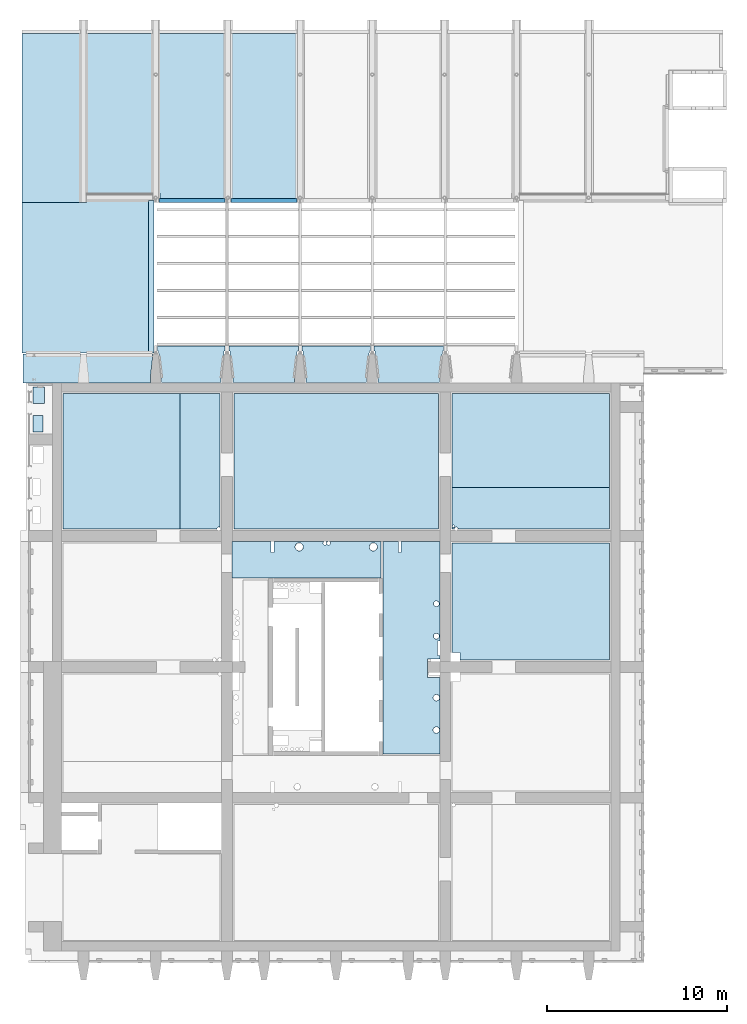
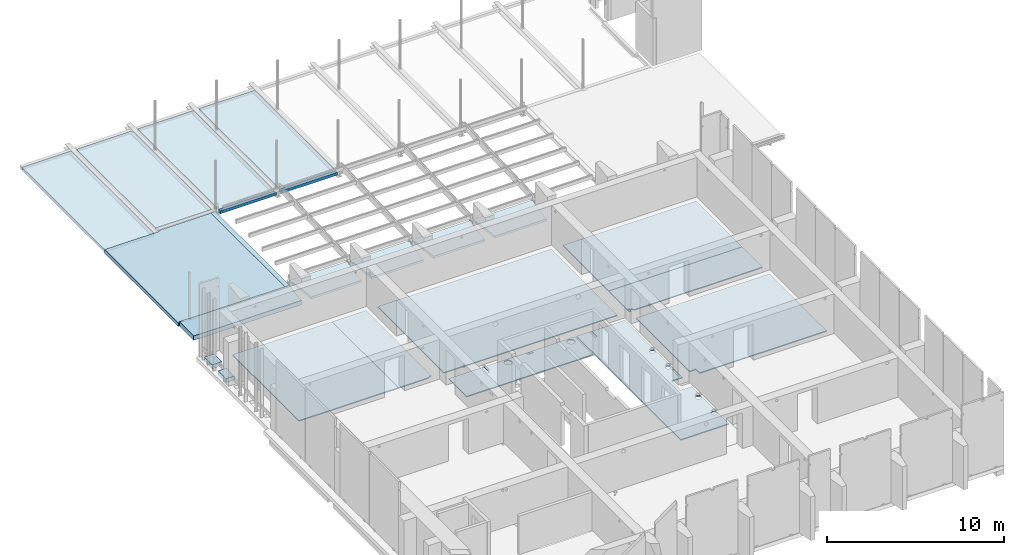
# One storey, part 24 of 31: 23 slabs, 46 openings.
"""IFC2X3 building model written with IfcOpenShell, lengths in millimetres."""

from ifc_helpers import new_model, entity, si_unit, converted_unit, derived_unit, direction, frame, frame_2d, origin, origin_2d_with_axis, place, context, subcontext, project, spatial, polyline, rectangle, circle, outline, extrude, material, layer, layer_set, layer_usage, element, save


model = new_model("IFC2X3")

# Units and contexts
model_context = context("Model", 3, precision=0.01, world=origin(), true_north=direction((6.12303176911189e-17, 1.0)))
body_context = subcontext(model_context, "Body", "Model", "MODEL_VIEW")
ifc_project = project(units=[si_unit("LENGTHUNIT", "METRE", prefix="MILLI"), si_unit("AREAUNIT", "SQUARE_METRE"), si_unit("VOLUMEUNIT", "CUBIC_METRE"), converted_unit("PLANEANGLEUNIT", "DEGREE", entity("IfcRatioMeasure", 0.0174532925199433), si_unit("PLANEANGLEUNIT", "RADIAN"), dimensions=[0, 0, 0, 0, 0, 0, 0]), si_unit("MASSUNIT", "GRAM", prefix="KILO"), derived_unit("MASSDENSITYUNIT", [(si_unit("MASSUNIT", "GRAM", prefix="KILO"), 1), (si_unit("LENGTHUNIT", "METRE"), -3)]), si_unit("TIMEUNIT", "SECOND"), si_unit("FREQUENCYUNIT", "HERTZ"), si_unit("THERMODYNAMICTEMPERATUREUNIT", "DEGREE_CELSIUS"), derived_unit("THERMALTRANSMITTANCEUNIT", [(si_unit("MASSUNIT", "GRAM", prefix="KILO"), 1), (si_unit("THERMODYNAMICTEMPERATUREUNIT", "KELVIN"), -1), (si_unit("TIMEUNIT", "SECOND"), -3)]), derived_unit("VOLUMETRICFLOWRATEUNIT", [(si_unit("LENGTHUNIT", "METRE"), 3), (si_unit("TIMEUNIT", "SECOND"), -1)]), si_unit("ELECTRICCURRENTUNIT", "AMPERE"), si_unit("ELECTRICVOLTAGEUNIT", "VOLT"), si_unit("POWERUNIT", "WATT"), si_unit("FORCEUNIT", "NEWTON", prefix="KILO"), si_unit("ILLUMINANCEUNIT", "LUX"), si_unit("LUMINOUSFLUXUNIT", "LUMEN"), si_unit("LUMINOUSINTENSITYUNIT", "CANDELA"), derived_unit("USERDEFINED", [(si_unit("MASSUNIT", "GRAM", prefix="KILO"), -1), (si_unit("LENGTHUNIT", "METRE"), -2), (si_unit("TIMEUNIT", "SECOND"), 3), (si_unit("LUMINOUSFLUXUNIT", "LUMEN"), 1)]), derived_unit("LINEARVELOCITYUNIT", [(si_unit("LENGTHUNIT", "METRE"), 1), (si_unit("TIMEUNIT", "SECOND"), -1)]), si_unit("PRESSUREUNIT", "PASCAL"), derived_unit("USERDEFINED", [(si_unit("LENGTHUNIT", "METRE"), -2), (si_unit("MASSUNIT", "GRAM", prefix="KILO"), 1), (si_unit("TIMEUNIT", "SECOND"), -2)])], contexts=[model_context])

# Site, building, storey
site_placement = place(None, origin())
site = spatial("IfcSite", under=ifc_project, at=site_placement, Name="Default", CompositionType="ELEMENT")
building_placement = place(site_placement, origin())
building = spatial("IfcBuilding", under=site, at=building_placement, Name="niet gebruiken", CompositionType="ELEMENT")
storey_placement = place(building_placement, frame((0.0, 0.0, 12000.0)))
storey = spatial("IfcBuildingStorey", under=building, at=storey_placement, Name="03 derde verdieping", CompositionType="ELEMENT", Elevation=12000.0)

# Slabs
ifc_material_1 = material(Name="NLRS_f2_beton prefab")
ifc_layer_1 = layer(ifc_material_1, 200.0)
ifc_layer_set_1 = layer_set([ifc_layer_1], Name="Floor:NLRS_23.21_FL_kanaalplaat d=200_gen")
ifc_layer_usage_1 = layer_usage(ifc_layer_set_1, "AXIS3", "POSITIVE", 0.0)
slab_1_placement = place(storey_placement, frame((124350.0, 43230.0, 1140.0)))
element("IfcSlab", 1, at=slab_1_placement, inside=storey, material=ifc_layer_usage_1, Name="Floor:NLRS_23.21_FL_kanaalplaat d=200_gen", ObjectType="Floor:NLRS_23.21_FL_kanaalplaat d=200_gen", PredefinedType="FLOOR", context=body_context, shape_type="SweptSolid", body=[
    extrude(rectangle(XDim=3229.99999999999, YDim=9370.00000000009, at=frame_2d((17795.0, 0.0), x_axis=(1.0, 0.0))), frame((19410.0, 4685.0, 200.0), z_axis=(0.0, 0.0, -1.0), x_axis=(-1.0, 0.0, 0.0)), (0.0, 0.0, 1.0), 200.0),
])
slab_2_placement = place(storey_placement, frame((124350.0, 43230.0, 1140.0)))
element("IfcSlab", 2, at=slab_2_placement, inside=storey, material=ifc_layer_usage_1, Name="Floor:NLRS_23.21_FL_kanaalplaat d=200_gen:3", ObjectType="Floor:NLRS_23.21_FL_kanaalplaat d=200_gen", PredefinedType="FLOOR", context=body_context, shape_type="SweptSolid", body=[
    extrude(outline(polyline([(11760.0, -4465.0), (11760.0, -4165.0), (11840.0, -4165.0), (11840.0, 4685.0), (8180.0, 4685.0), (8180.0, -4465.0), (11760.0, -4465.0)])), frame((19410.0, 4685.0, 200.0), z_axis=(0.0, 0.0, -1.0), x_axis=(-1.0, 0.0, 0.0)), (0.0, 0.0, 1.0), 200.0),
])
slab_3_placement = place(storey_placement, frame((124350.0, 43230.0, 1140.0)))
element("IfcSlab", 3, at=slab_3_placement, inside=storey, material=ifc_layer_usage_1, Name="Floor:NLRS_23.21_FL_kanaalplaat d=200_gen:5", ObjectType="Floor:NLRS_23.21_FL_kanaalplaat d=200_gen", PredefinedType="FLOOR", context=body_context, shape_type="SweptSolid", body=[
    extrude(rectangle(XDim=9150.00000000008, YDim=3660.00000000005, at=frame_2d((6010.0, 110.0), x_axis=(0.0, 1.0))), frame((19410.0, 4685.0, 200.0), z_axis=(0.0, 0.0, -1.0), x_axis=(-1.0, 0.0, 0.0)), (0.0, 0.0, 1.0), 200.0),
])
slab_4_placement = place(storey_placement, frame((124350.0, 43230.0, 1140.0)))
element("IfcSlab", 4, at=slab_4_placement, inside=storey, material=ifc_layer_usage_1, Name="Floor:NLRS_23.21_FL_kanaalplaat d=200_gen:7", ObjectType="Floor:NLRS_23.21_FL_kanaalplaat d=200_gen", PredefinedType="FLOOR", context=body_context, shape_type="SweptSolid", body=[
    extrude(rectangle(XDim=3660.00000000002, YDim=8970.00000000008, at=frame_2d((14010.0, 200.0), x_axis=(-1.0, 0.0))), frame((19410.0, 4685.0, 200.0), z_axis=(0.0, 0.0, -1.0), x_axis=(-1.0, 0.0, 0.0)), (0.0, 0.0, 1.0), 200.0),
])
ifc_material_2 = material(Name="NLRS_f2_beton ihwg")
ifc_layer_2 = layer(ifc_material_2, 300.0)
ifc_layer_set_2 = layer_set([ifc_layer_2], Name="Floor:NLRS_23.21_FL_beton ihwg d=300_gen")
ifc_layer_usage_2 = layer_usage(ifc_layer_set_2, "AXIS3", "POSITIVE", 0.0)
slab_5_placement = place(storey_placement, origin())
element("IfcSlab", 5, at=slab_5_placement, inside=storey, material=ifc_layer_usage_2, Name="Floor:NLRS_23.21_FL_beton ihwg d=300_gen", ObjectType="Floor:NLRS_23.21_FL_beton ihwg d=300_gen", PredefinedType="FLOOR", context=body_context, shape_type="SweptSolid", body=[
    extrude(outline(polyline([(-702.0, -4260.0), (918.0, -4260.0), (918.0, 2940.0), (-432.0, 2790.0), (-702.0, 2790.0), (-702.0, -4260.0)])), frame((128660.0, 33932.0, 1410.0), z_axis=(0.0, 0.0, -1.0), x_axis=(0.0, 1.0, 0.0)), (0.0, 0.0, 1.0), 299.999999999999),
])
ifc_layer_3 = layer(ifc_material_1, 255.0)
ifc_layer_set_3 = layer_set([ifc_layer_3], Name="Floor:NLRS_23.21_FL_kanaalplaat d=255_gen")
ifc_layer_usage_3 = layer_usage(ifc_layer_set_3, "AXIS3", "POSITIVE", 0.0)
slab_6_placement = place(storey_placement, origin())
element("IfcSlab", 6, at=slab_6_placement, inside=storey, material=ifc_layer_usage_3, Name="Floor:NLRS_23.21_FL_kanaalplaat d=255_gen", ObjectType="Floor:NLRS_23.21_FL_kanaalplaat d=255_gen", PredefinedType="FLOOR", context=body_context, shape_type="SweptSolid", body=[
    extrude(outline(polyline([(-5596.66666666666, -3525.0), (2748.33333333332, -3525.0), (2748.33333333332, 45.0), (2848.33333333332, 45.0), (2848.33333333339, 3480.0), (-5596.66666666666, 3480.0), (-5596.66666666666, -3525.0)])), frame((127875.0, 40481.6666666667, 1340.0), z_axis=(0.0, 0.0, -1.0), x_axis=(0.0, 1.0, 0.0)), (0.0, 0.0, 1.0), 255.000000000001),
])

# Slab, opening
ifc_layer_4 = layer(ifc_material_1, 70.0)
ifc_layer_set_4 = layer_set([ifc_layer_4], Name="Floor:NLRS_23.21_FL_breedplaat d=70_gen")
ifc_layer_usage_4 = layer_usage(ifc_layer_set_4, "AXIS3", "POSITIVE", 0.0)
slab_7_placement = place(storey_placement, frame((133100.0, 25130.0, -360.0)))
slab_7 = element("IfcSlab", 7, at=slab_7_placement, inside=storey, material=ifc_layer_usage_4, Name="Floor:NLRS_23.21_FL_breedplaat d=70_gen", ObjectType="Floor:NLRS_23.21_FL_breedplaat d=70_gen", PredefinedType="FLOOR", context=body_context, shape_type="SweptSolid", body=[
    extrude(rectangle(XDim=7520.00000000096, YDim=2220.0, at=frame_2d((10790.0, 0.0), x_axis=(0.0, 1.0))), frame((11900.0, 3760.0, 70.0), z_axis=(0.0, 0.0, -1.0), x_axis=(-1.0, 0.0, 0.0)), (0.0, 0.0, 1.0), 69.9999999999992),
])
placement_1 = place(slab_7_placement, origin())
element("IfcOpeningElement", 8, at=placement_1, cuts=slab_7, ObjectType="Opening", context=body_context, shape_type="SweptSolid", body=[
    extrude(circle(Radius=100.0, at=origin_2d_with_axis()), frame((2140.0, 20.0, 0.0), z_axis=(0.0, 0.0, 1.0), x_axis=(0.0, 1.0, 0.0)), (0.0, 0.0, 1.0), 269.999999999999),
])

slab_8_placement = place(storey_placement, frame((133100.0, 25130.0, -360.0)))
slab_8 = element("IfcSlab", 9, at=slab_8_placement, inside=storey, material=ifc_layer_usage_4, Name="Floor:NLRS_23.21_FL_breedplaat d=70_gen:2", ObjectType="Floor:NLRS_23.21_FL_breedplaat d=70_gen", PredefinedType="FLOOR", context=body_context, shape_type="SweptSolid", body=[
    extrude(rectangle(XDim=8719.99999999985, YDim=5210.00000000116, at=frame_2d((-7540.0, 1155.0), x_axis=(-1.0, 0.0))), frame((11900.0, 3760.0, 70.0), z_axis=(0.0, 0.0, -1.0), x_axis=(-1.0, 0.0, 0.0)), (0.0, 0.0, 1.0), 69.9999999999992),
])
element("IfcOpeningElement", 10, at=placement_1, cuts=slab_8, ObjectType="Opening", context=body_context, shape_type="SweptSolid", body=[
    extrude(circle(Radius=100.0, at=origin_2d_with_axis()), frame((2140.0, 20.0, 0.0), z_axis=(0.0, 0.0, 1.0), x_axis=(0.0, 1.0, 0.0)), (0.0, 0.0, 1.0), 269.999999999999),
])

slab_9_placement = place(storey_placement, frame((133100.0, 25130.0, -360.0)))
slab_9 = element("IfcSlab", 11, at=slab_9_placement, inside=storey, material=ifc_layer_usage_4, Name="Floor:NLRS_23.21_FL_breedplaat d=70_gen:3", ObjectType="Floor:NLRS_23.21_FL_breedplaat d=70_gen", PredefinedType="FLOOR", context=body_context, shape_type="SweptSolid", body=[
    extrude(rectangle(XDim=11340.0000000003, YDim=7520.00000000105, at=frame_2d((3250.0, 0.0), x_axis=(1.0, 0.0))), frame((11900.0, 3760.0, 70.0), z_axis=(0.0, 0.0, -1.0), x_axis=(-1.0, 0.0, 0.0)), (0.0, 0.0, 1.0), 69.9999999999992),
])
element("IfcOpeningElement", 12, at=placement_1, cuts=slab_9, ObjectType="Opening", context=body_context, shape_type="SweptSolid", body=[
    extrude(circle(Radius=100.0, at=origin_2d_with_axis()), frame((2140.0, 20.0, 0.0), z_axis=(0.0, 0.0, 1.0), x_axis=(0.0, 1.0, 0.0)), (0.0, 0.0, 1.0), 269.999999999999),
])

# Slab, openings
ifc_layer_usage_5 = layer_usage(ifc_layer_set_4, "AXIS3", "POSITIVE", 0.0)
slab_10_placement = place(storey_placement, frame((148180.0, 2350.0, -360.0)))
slab_10 = element("IfcSlab", 13, at=slab_10_placement, inside=storey, material=ifc_layer_usage_5, Name="Floor:NLRS_23.21_FL_breedplaat d=70_gen", ObjectType="Floor:NLRS_23.21_FL_breedplaat d=70_gen", PredefinedType="FLOOR", context=body_context, shape_type="SweptSolid", body=[
    extrude(rectangle(XDim=8719.99999999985, YDim=2310.0000000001, at=frame_2d((0.0, 11390.0), x_axis=(-1.0, 0.0))), frame((4360.0, 12545.0, 70.0), z_axis=(0.0, 0.0, -1.0), x_axis=(-1.0, 0.0, 0.0)), (0.0, 0.0, 1.0), 69.9999999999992),
])
placement_2 = place(slab_10_placement, origin())
element("IfcOpeningElement", 14, at=placement_2, cuts=slab_10, ObjectType="Opening", context=body_context, shape_type="SweptSolid", body=[
    extrude(rectangle(XDim=500.000000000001, YDim=500.000000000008, at=origin_2d_with_axis()), frame((170.0, 14600.0, 0.0), z_axis=(0.0, 0.0, 1.0), x_axis=(0.0, 1.0, 0.0)), (0.0, 0.0, 1.0), 269.999999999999),
])
placement_3 = place(slab_10_placement, origin())
element("IfcOpeningElement", 15, at=placement_3, cuts=slab_10, ObjectType="Opening", context=body_context, shape_type="SweptSolid", body=[
    extrude(rectangle(XDim=500.000000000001, YDim=500.000000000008, at=origin_2d_with_axis()), frame((170.0, 15700.0, 0.0), z_axis=(0.0, 0.0, 1.0), x_axis=(0.0, 1.0, 0.0)), (0.0, 0.0, 1.0), 269.999999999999),
])
placement_4 = place(slab_10_placement, origin())
element("IfcOpeningElement", 16, at=placement_4, cuts=slab_10, ObjectType="Opening", context=body_context, shape_type="SweptSolid", body=[
    extrude(circle(Radius=100.0, at=origin_2d_with_axis()), frame((220.0, 22800.0, 0.0), z_axis=(0.0, 0.0, 1.0), x_axis=(0.0, 1.0, 0.0)), (0.0, 0.0, 1.0), 269.999999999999),
])
placement_5 = place(slab_10_placement, origin())
element("IfcOpeningElement", 17, at=placement_5, cuts=slab_10, ObjectType="Opening", context=body_context, shape_type="SweptSolid", body=[
    extrude(circle(Radius=62.5, at=origin_2d_with_axis()), frame((70.0, 22950.0, 0.0), z_axis=(0.0, 0.0, 1.0), x_axis=(0.0, 1.0, 0.0)), (0.0, 0.0, 1.0), 269.999999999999),
])

slab_11_placement = place(storey_placement, frame((148180.0, 2350.0, -360.0)))
slab_11 = element("IfcSlab", 18, at=slab_11_placement, inside=storey, material=ifc_layer_usage_5, Name="Floor:NLRS_23.21_FL_breedplaat d=70_gen:4", ObjectType="Floor:NLRS_23.21_FL_breedplaat d=70_gen", PredefinedType="FLOOR", context=body_context, shape_type="SweptSolid", body=[
    extrude(rectangle(XDim=8719.99999999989, YDim=6489.99999999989, at=frame_2d((0.0, 6230.0), x_axis=(1.0, 0.0))), frame((4360.0, 12545.0, 70.0), z_axis=(0.0, 0.0, -1.0), x_axis=(-1.0, 0.0, 0.0)), (0.0, 0.0, 1.0), 69.9999999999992),
])
element("IfcOpeningElement", 19, at=placement_2, cuts=slab_11, ObjectType="Opening", context=body_context, shape_type="SweptSolid", body=[
    extrude(rectangle(XDim=500.000000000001, YDim=500.000000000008, at=origin_2d_with_axis()), frame((170.0, 14600.0, 0.0), z_axis=(0.0, 0.0, 1.0), x_axis=(0.0, 1.0, 0.0)), (0.0, 0.0, 1.0), 269.999999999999),
])
element("IfcOpeningElement", 20, at=placement_3, cuts=slab_11, ObjectType="Opening", context=body_context, shape_type="SweptSolid", body=[
    extrude(rectangle(XDim=500.000000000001, YDim=500.000000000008, at=origin_2d_with_axis()), frame((170.0, 15700.0, 0.0), z_axis=(0.0, 0.0, 1.0), x_axis=(0.0, 1.0, 0.0)), (0.0, 0.0, 1.0), 269.999999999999),
])
element("IfcOpeningElement", 21, at=placement_4, cuts=slab_11, ObjectType="Opening", context=body_context, shape_type="SweptSolid", body=[
    extrude(circle(Radius=100.0, at=origin_2d_with_axis()), frame((220.0, 22800.0, 0.0), z_axis=(0.0, 0.0, 1.0), x_axis=(0.0, 1.0, 0.0)), (0.0, 0.0, 1.0), 269.999999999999),
])
element("IfcOpeningElement", 22, at=placement_5, cuts=slab_11, ObjectType="Opening", context=body_context, shape_type="SweptSolid", body=[
    extrude(circle(Radius=62.5, at=origin_2d_with_axis()), frame((70.0, 22950.0, 0.0), z_axis=(0.0, 0.0, 1.0), x_axis=(0.0, 1.0, 0.0)), (0.0, 0.0, 1.0), 269.999999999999),
])

ifc_layer_usage_6 = layer_usage(ifc_layer_set_4, "AXIS3", "POSITIVE", 0.0)
slab_12_placement = place(storey_placement, frame((126600.0, 12266.0, -360.0)))
slab_12 = element("IfcSlab", 23, at=slab_12_placement, inside=storey, material=ifc_layer_usage_6, Name="Floor:NLRS_23.21_FL_breedplaat d=70_gen", ObjectType="Floor:NLRS_23.21_FL_breedplaat d=70_gen", PredefinedType="FLOOR", context=body_context, shape_type="SweptSolid", body=[
    extrude(rectangle(XDim=7520.00000000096, YDim=6500.00000000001, at=frame_2d((1155.0, 6432.0), x_axis=(0.0, 1.0))), frame((4405.0, 10192.0, 70.0), z_axis=(0.0, 0.0, -1.0), x_axis=(-1.0, 0.0, 0.0)), (0.0, 0.0, 1.0), 69.9999999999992),
])
opening_12_placement = place(slab_12_placement, origin())
element("IfcOpeningElement", 24, at=opening_12_placement, cuts=slab_12, ObjectType="Opening", context=body_context, shape_type="SweptSolid", body=[
    extrude(circle(Radius=100.0, at=origin_2d_with_axis()), frame((8400.0, 5634.0, 0.0), z_axis=(0.0, 0.0, 1.0), x_axis=(0.0, 1.0, 0.0)), (0.0, 0.0, 1.0), 269.999999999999),
])
opening_13_placement = place(slab_12_placement, origin())
element("IfcOpeningElement", 25, at=opening_13_placement, cuts=slab_12, ObjectType="Opening", context=body_context, shape_type="SweptSolid", body=[
    extrude(circle(Radius=100.0, at=origin_2d_with_axis()), frame((8700.0, 5634.0, 0.0), z_axis=(0.0, 0.0, 1.0), x_axis=(0.0, 1.0, 0.0)), (0.0, 0.0, 1.0), 269.999999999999),
])
opening_14_placement = place(slab_12_placement, origin())
element("IfcOpeningElement", 26, at=opening_14_placement, cuts=slab_12, ObjectType="Opening", context=body_context, shape_type="SweptSolid", body=[
    extrude(circle(Radius=100.0, at=origin_2d_with_axis()), frame((8700.0, 4834.0, 0.0), z_axis=(0.0, 0.0, 1.0), x_axis=(0.0, 1.0, 0.0)), (0.0, 0.0, 1.0), 269.999999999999),
])

ifc_layer_usage_7 = layer_usage(ifc_layer_set_4, "AXIS3", "POSITIVE", 0.0)
slab_13_placement = place(storey_placement, frame((135990.0, 10540.0, -330.0)))
slab_13 = element("IfcSlab", 27, at=slab_13_placement, inside=storey, material=ifc_layer_usage_7, Name="Floor:NLRS_23.21_FL_breedplaat d=70_gen:3", ObjectType="Floor:NLRS_23.21_FL_breedplaat d=70_gen", PredefinedType="FLOOR", context=body_context, shape_type="SweptSolid", body=[
    extrude(outline(polyline([(-5760.0, 6960.0), (-5760.0, 4800.0), (-5760.0, 450.0), (-5060.0, 450.0), (-5060.0, -600.0), (-5760.0, -600.0), (-5760.0, -4830.0), (-2600.0, -4830.0), (-2600.0, 6960.0), (-5760.0, 6960.0)])), frame((5760.0, 6960.0, 70.0), z_axis=(0.0, 0.0, -1.0), x_axis=(-1.0, 0.0, 0.0)), (0.0, 0.0, 1.0), 69.9999999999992),
])
placement_6 = place(storey_placement, frame((135990.0, 10540.0, -330.0)))
placement_7 = place(placement_6, origin())
element("IfcOpeningElement", 28, at=placement_7, cuts=slab_13, ObjectType="Opening", context=body_context, shape_type="SweptSolid", body=[
    extrude(rectangle(XDim=150.000000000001, YDim=600.000000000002, at=origin_2d_with_axis()), frame((2234.97810195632, 13610.0, 0.0)), (0.0, 0.0, 1.0), 240.0),
])
placement_8 = place(placement_6, origin())
element("IfcOpeningElement", 29, at=placement_8, cuts=slab_13, ObjectType="Opening", context=body_context, shape_type="SweptSolid", body=[
    extrude(rectangle(XDim=600.000000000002, YDim=155.000000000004, at=origin_2d_with_axis()), frame((11210.0, 6582.49999999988, 0.0)), (0.0, 0.0, 1.0), 240.0),
])
placement_9 = place(placement_6, origin())
element("IfcOpeningElement", 30, at=placement_9, cuts=slab_13, ObjectType="Opening", context=body_context, shape_type="SweptSolid", body=[
    extrude(circle(Radius=157.5, at=origin_2d_with_axis()), frame((11310.0, 8664.95038231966, 0.0), z_axis=(0.0, 0.0, 1.0), x_axis=(0.0, 1.0, 0.0)), (0.0, 0.0, 1.0), 240.0),
])
placement_10 = place(placement_6, origin())
element("IfcOpeningElement", 31, at=placement_10, cuts=slab_13, ObjectType="Opening", context=body_context, shape_type="SweptSolid", body=[
    extrude(rectangle(XDim=800.000000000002, YDim=140.000000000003, at=origin_2d_with_axis()), frame((11440.0, 7984.66819096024, 0.0), z_axis=(0.0, 0.0, 1.0), x_axis=(0.0, -1.0, 0.0)), (0.0, 0.0, 1.0), 240.0),
])
placement_11 = place(placement_6, origin())
element("IfcOpeningElement", 32, at=placement_11, cuts=slab_13, ObjectType="Opening", context=body_context, shape_type="SweptSolid", body=[
    extrude(rectangle(XDim=150.000000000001, YDim=590.000000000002, at=origin_2d_with_axis()), frame((9285.0, 305.0, 0.0)), (0.0, 0.0, 1.0), 240.0),
])
placement_12 = place(placement_6, origin())
element("IfcOpeningElement", 33, at=placement_12, cuts=slab_13, ObjectType="Opening", context=body_context, shape_type="SweptSolid", body=[
    extrude(rectangle(XDim=150.000000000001, YDim=600.000000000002, at=origin_2d_with_axis()), frame((9285.02189507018, 13610.0, 0.0)), (0.0, 0.0, 1.0), 240.0),
])
placement_13 = place(placement_6, origin())
element("IfcOpeningElement", 34, at=placement_13, cuts=slab_13, ObjectType="Opening", context=body_context, shape_type="SweptSolid", body=[
    extrude(circle(Radius=225.0, at=origin_2d_with_axis()), frame((3710.0, 13610.0, 0.0), z_axis=(0.0, 0.0, 1.0), x_axis=(-1.0, 0.0, 0.0)), (0.0, 0.0, 1.0), 240.0),
])
placement_14 = place(placement_6, origin())
element("IfcOpeningElement", 35, at=placement_14, cuts=slab_13, ObjectType="Opening", context=body_context, shape_type="SweptSolid", body=[
    extrude(circle(Radius=225.0, at=origin_2d_with_axis()), frame((7820.0, 13610.0, 0.0), z_axis=(0.0, 0.0, 1.0), x_axis=(-1.0, 0.0, 0.0)), (0.0, 0.0, 1.0), 240.0),
])
placement_15 = place(placement_6, origin())
element("IfcOpeningElement", 36, at=placement_15, cuts=slab_13, ObjectType="Opening", context=body_context, shape_type="SweptSolid", body=[
    extrude(circle(Radius=157.5, at=origin_2d_with_axis()), frame((11310.0, 10459.9054766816, 0.0), z_axis=(0.0, 0.0, 1.0), x_axis=(0.0, 1.0, 0.0)), (0.0, 0.0, 1.0), 240.0),
])
placement_16 = place(placement_6, origin())
element("IfcOpeningElement", 37, at=placement_16, cuts=slab_13, ObjectType="Opening", context=body_context, shape_type="SweptSolid", body=[
    extrude(circle(Radius=177.5, at=origin_2d_with_axis()), frame((11311.1443647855, 5255.0, 0.0), z_axis=(0.0, 0.0, 1.0), x_axis=(0.0, 1.0, 0.0)), (0.0, 0.0, 1.0), 240.0),
])
placement_17 = place(placement_6, origin())
element("IfcOpeningElement", 38, at=placement_17, cuts=slab_13, ObjectType="Opening", context=body_context, shape_type="SweptSolid", body=[
    extrude(circle(Radius=177.5, at=origin_2d_with_axis()), frame((11309.0502495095, 3460.0, 0.0), z_axis=(0.0, 0.0, 1.0), x_axis=(0.0, 1.0, 0.0)), (0.0, 0.0, 1.0), 240.0),
])
placement_18 = place(placement_6, origin())
element("IfcOpeningElement", 39, at=placement_18, cuts=slab_13, ObjectType="Opening", context=body_context, shape_type="SweptSolid", body=[
    extrude(circle(Radius=177.5, at=origin_2d_with_axis()), frame((7910.0, 310.0, 0.0), z_axis=(0.0, 0.0, 1.0), x_axis=(-1.0, 0.0, 0.0)), (0.0, 0.0, 1.0), 240.0),
])
placement_19 = place(placement_6, origin())
element("IfcOpeningElement", 40, at=placement_19, cuts=slab_13, ObjectType="Opening", context=body_context, shape_type="SweptSolid", body=[
    extrude(circle(Radius=177.5, at=origin_2d_with_axis()), frame((3605.0, 310.0, 0.0), z_axis=(0.0, 0.0, 1.0), x_axis=(-1.0, 0.0, 0.0)), (0.0, 0.0, 1.0), 240.0),
])
placement_20 = place(placement_6, origin())
element("IfcOpeningElement", 41, at=placement_20, cuts=slab_13, ObjectType="Opening", context=body_context, shape_type="SweptSolid", body=[
    extrude(rectangle(XDim=150.000000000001, YDim=590.000000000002, at=origin_2d_with_axis()), frame((2234.97810195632, 304.908594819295, 0.0)), (0.0, 0.0, 1.0), 240.0),
])
placement_21 = place(placement_6, origin())
element("IfcOpeningElement", 42, at=placement_21, cuts=slab_13, ObjectType="Opening", context=body_context, shape_type="SweptSolid", body=[
    extrude(circle(Radius=100.0, at=origin_2d_with_axis()), frame((5134.86122070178, 13809.950390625, 0.0), z_axis=(0.0, 0.0, 1.0), x_axis=(-1.0, 0.0, 0.0)), (0.0, 0.0, 1.0), 240.0),
])
placement_22 = place(placement_6, origin())
element("IfcOpeningElement", 43, at=placement_22, cuts=slab_13, ObjectType="Opening", context=body_context, shape_type="SweptSolid", body=[
    extrude(circle(Radius=100.0, at=origin_2d_with_axis()), frame((5344.25647816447, 13809.950390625, 0.0), z_axis=(0.0, 0.0, 1.0), x_axis=(-1.0, 0.0, 0.0)), (0.0, 0.0, 1.0), 240.0),
])

slab_14_placement = place(storey_placement, frame((135990.0, 10540.0, -330.0)))
slab_14 = element("IfcSlab", 44, at=slab_14_placement, inside=storey, material=ifc_layer_usage_7, Name="Floor:NLRS_23.21_FL_breedplaat d=70_gen:4", ObjectType="Floor:NLRS_23.21_FL_breedplaat d=70_gen", PredefinedType="FLOOR", context=body_context, shape_type="SweptSolid", body=[
    extrude(rectangle(XDim=8250.0, YDim=2039.99999999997, at=frame_2d((1635.0, 5940.0), x_axis=(-1.0, 0.0))), frame((5760.0, 6960.0, 70.0), z_axis=(0.0, 0.0, -1.0), x_axis=(-1.0, 0.0, 0.0)), (0.0, 0.0, 1.0), 69.9999999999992),
])
element("IfcOpeningElement", 45, at=placement_7, cuts=slab_14, ObjectType="Opening", context=body_context, shape_type="SweptSolid", body=[
    extrude(rectangle(XDim=150.000000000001, YDim=600.000000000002, at=origin_2d_with_axis()), frame((2234.97810195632, 13610.0, 0.0)), (0.0, 0.0, 1.0), 240.0),
])
element("IfcOpeningElement", 46, at=placement_8, cuts=slab_14, ObjectType="Opening", context=body_context, shape_type="SweptSolid", body=[
    extrude(rectangle(XDim=600.000000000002, YDim=155.000000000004, at=origin_2d_with_axis()), frame((11210.0, 6582.49999999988, 0.0)), (0.0, 0.0, 1.0), 240.0),
])
element("IfcOpeningElement", 47, at=placement_9, cuts=slab_14, ObjectType="Opening", context=body_context, shape_type="SweptSolid", body=[
    extrude(circle(Radius=157.5, at=origin_2d_with_axis()), frame((11310.0, 8664.95038231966, 0.0), z_axis=(0.0, 0.0, 1.0), x_axis=(0.0, 1.0, 0.0)), (0.0, 0.0, 1.0), 240.0),
])
element("IfcOpeningElement", 48, at=placement_10, cuts=slab_14, ObjectType="Opening", context=body_context, shape_type="SweptSolid", body=[
    extrude(rectangle(XDim=800.000000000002, YDim=140.000000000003, at=origin_2d_with_axis()), frame((11440.0, 7984.66819096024, 0.0), z_axis=(0.0, 0.0, 1.0), x_axis=(0.0, -1.0, 0.0)), (0.0, 0.0, 1.0), 240.0),
])
element("IfcOpeningElement", 49, at=placement_11, cuts=slab_14, ObjectType="Opening", context=body_context, shape_type="SweptSolid", body=[
    extrude(rectangle(XDim=150.000000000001, YDim=590.000000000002, at=origin_2d_with_axis()), frame((9285.0, 305.0, 0.0)), (0.0, 0.0, 1.0), 240.0),
])
element("IfcOpeningElement", 50, at=placement_12, cuts=slab_14, ObjectType="Opening", context=body_context, shape_type="SweptSolid", body=[
    extrude(rectangle(XDim=150.000000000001, YDim=600.000000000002, at=origin_2d_with_axis()), frame((9285.02189507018, 13610.0, 0.0)), (0.0, 0.0, 1.0), 240.0),
])
element("IfcOpeningElement", 51, at=placement_13, cuts=slab_14, ObjectType="Opening", context=body_context, shape_type="SweptSolid", body=[
    extrude(circle(Radius=225.0, at=origin_2d_with_axis()), frame((3710.0, 13610.0, 0.0), z_axis=(0.0, 0.0, 1.0), x_axis=(-1.0, 0.0, 0.0)), (0.0, 0.0, 1.0), 240.0),
])
element("IfcOpeningElement", 52, at=placement_14, cuts=slab_14, ObjectType="Opening", context=body_context, shape_type="SweptSolid", body=[
    extrude(circle(Radius=225.0, at=origin_2d_with_axis()), frame((7820.0, 13610.0, 0.0), z_axis=(0.0, 0.0, 1.0), x_axis=(-1.0, 0.0, 0.0)), (0.0, 0.0, 1.0), 240.0),
])
element("IfcOpeningElement", 53, at=placement_15, cuts=slab_14, ObjectType="Opening", context=body_context, shape_type="SweptSolid", body=[
    extrude(circle(Radius=157.5, at=origin_2d_with_axis()), frame((11310.0, 10459.9054766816, 0.0), z_axis=(0.0, 0.0, 1.0), x_axis=(0.0, 1.0, 0.0)), (0.0, 0.0, 1.0), 240.0),
])
element("IfcOpeningElement", 54, at=placement_16, cuts=slab_14, ObjectType="Opening", context=body_context, shape_type="SweptSolid", body=[
    extrude(circle(Radius=177.5, at=origin_2d_with_axis()), frame((11311.1443647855, 5255.0, 0.0), z_axis=(0.0, 0.0, 1.0), x_axis=(0.0, 1.0, 0.0)), (0.0, 0.0, 1.0), 240.0),
])
element("IfcOpeningElement", 55, at=placement_17, cuts=slab_14, ObjectType="Opening", context=body_context, shape_type="SweptSolid", body=[
    extrude(circle(Radius=177.5, at=origin_2d_with_axis()), frame((11309.0502495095, 3460.0, 0.0), z_axis=(0.0, 0.0, 1.0), x_axis=(0.0, 1.0, 0.0)), (0.0, 0.0, 1.0), 240.0),
])
element("IfcOpeningElement", 56, at=placement_18, cuts=slab_14, ObjectType="Opening", context=body_context, shape_type="SweptSolid", body=[
    extrude(circle(Radius=177.5, at=origin_2d_with_axis()), frame((7910.0, 310.0, 0.0), z_axis=(0.0, 0.0, 1.0), x_axis=(-1.0, 0.0, 0.0)), (0.0, 0.0, 1.0), 240.0),
])
element("IfcOpeningElement", 57, at=placement_19, cuts=slab_14, ObjectType="Opening", context=body_context, shape_type="SweptSolid", body=[
    extrude(circle(Radius=177.5, at=origin_2d_with_axis()), frame((3605.0, 310.0, 0.0), z_axis=(0.0, 0.0, 1.0), x_axis=(-1.0, 0.0, 0.0)), (0.0, 0.0, 1.0), 240.0),
])
element("IfcOpeningElement", 58, at=placement_20, cuts=slab_14, ObjectType="Opening", context=body_context, shape_type="SweptSolid", body=[
    extrude(rectangle(XDim=150.000000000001, YDim=590.000000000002, at=origin_2d_with_axis()), frame((2234.97810195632, 304.908594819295, 0.0)), (0.0, 0.0, 1.0), 240.0),
])
element("IfcOpeningElement", 59, at=placement_21, cuts=slab_14, ObjectType="Opening", context=body_context, shape_type="SweptSolid", body=[
    extrude(circle(Radius=100.0, at=origin_2d_with_axis()), frame((5134.86122070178, 13809.950390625, 0.0), z_axis=(0.0, 0.0, 1.0), x_axis=(-1.0, 0.0, 0.0)), (0.0, 0.0, 1.0), 240.0),
])
element("IfcOpeningElement", 60, at=placement_22, cuts=slab_14, ObjectType="Opening", context=body_context, shape_type="SweptSolid", body=[
    extrude(circle(Radius=100.0, at=origin_2d_with_axis()), frame((5344.25647816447, 13809.950390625, 0.0), z_axis=(0.0, 0.0, 1.0), x_axis=(-1.0, 0.0, 0.0)), (0.0, 0.0, 1.0), 240.0),
])

# Slabs
ifc_layer_5 = layer(ifc_material_1, 150.0)
ifc_layer_set_5 = layer_set([ifc_layer_5], Name="Floor:NLRS_23.21_FL_beton prefab d=150_gen")
ifc_layer_usage_8 = layer_usage(ifc_layer_set_5, "AXIS3", "POSITIVE", 0.0)
slab_15_placement = place(storey_placement, origin())
element("IfcSlab", 61, at=slab_15_placement, inside=storey, material=ifc_layer_usage_8, Name="Floor:NLRS_23.21_FL_beton prefab d=150_gen", ObjectType="Floor:NLRS_23.21_FL_beton prefab d=150_gen", PredefinedType="FLOOR", context=body_context, shape_type="SweptSolid", body=[
    extrude(outline(polyline([(597.778459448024, -1875.0), (877.778459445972, -1875.0), (877.778459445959, 1875.0), (597.778459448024, 1875.0), (597.778459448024, 1822.65469969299), (-911.113837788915, 1655.0), (-1162.22154055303, 1655.0), (-1162.22154055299, -1655.0), (-911.113837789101, -1655.0), (597.778459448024, -1822.65469969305), (597.778459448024, -1875.0)])), frame((133725.0, 34412.221540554, 1410.0), z_axis=(0.0, 0.0, -1.0), x_axis=(0.0, 1.0, 0.0)), (0.0, 0.0, 1.0), 150.000000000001),
])
ifc_layer_usage_9 = layer_usage(ifc_layer_set_5, "AXIS3", "POSITIVE", 0.0)
slab_16_placement = place(storey_placement, origin())
element("IfcSlab", 62, at=slab_16_placement, inside=storey, material=ifc_layer_usage_9, Name="Floor:NLRS_23.21_FL_beton prefab d=150_gen", ObjectType="Floor:NLRS_23.21_FL_beton prefab d=150_gen", PredefinedType="FLOOR", context=body_context, shape_type="SweptSolid", body=[
    extrude(outline(polyline([(597.778459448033, -1925.0), (877.778459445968, -1925.0), (877.778459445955, 1925.0), (597.778459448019, 1925.0), (597.778459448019, 1872.65469969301), (-911.113837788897, 1705.0), (-1162.22154055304, 1705.0), (-1162.221540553, -1705.0), (-911.113837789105, -1705.0), (597.778459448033, -1872.65469969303), (597.778459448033, -1925.0)])), frame((137725.0, 34412.221540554, 1410.0), z_axis=(0.0, 0.0, -1.0), x_axis=(0.0, 1.0, 0.0)), (0.0, 0.0, 1.0), 150.000000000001),
])
ifc_layer_usage_10 = layer_usage(ifc_layer_set_5, "AXIS3", "POSITIVE", 0.0)
slab_17_placement = place(storey_placement, origin())
element("IfcSlab", 63, at=slab_17_placement, inside=storey, material=ifc_layer_usage_10, Name="Floor:NLRS_23.21_FL_beton prefab d=150_gen", ObjectType="Floor:NLRS_23.21_FL_beton prefab d=150_gen", PredefinedType="FLOOR", context=body_context, shape_type="SweptSolid", body=[
    extrude(outline(polyline([(597.778459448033, -1900.0), (877.778459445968, -1900.0), (877.778459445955, 1900.0), (597.778459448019, 1900.0), (597.778459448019, 1847.65469969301), (-911.113837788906, 1680.0), (-1162.22154055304, 1680.0), (-1162.221540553, -1680.0), (-911.113837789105, -1680.0), (597.778459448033, -1847.654699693), (597.778459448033, -1900.0)])), frame((141750.0, 34412.221540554, 1410.0), z_axis=(0.0, 0.0, -1.0), x_axis=(0.0, 1.0, 0.0)), (0.0, 0.0, 1.0), 150.000000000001),
])
ifc_layer_usage_11 = layer_usage(ifc_layer_set_5, "AXIS3", "POSITIVE", 0.0)
slab_18_placement = place(storey_placement, origin())
element("IfcSlab", 64, at=slab_18_placement, inside=storey, material=ifc_layer_usage_11, Name="Floor:NLRS_23.21_FL_beton prefab d=150_gen", ObjectType="Floor:NLRS_23.21_FL_beton prefab d=150_gen", PredefinedType="FLOOR", context=body_context, shape_type="SweptSolid", body=[
    extrude(outline(polyline([(597.778459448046, -1925.0), (877.778459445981, -1925.0), (877.778459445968, 1925.0), (597.778459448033, 1925.0), (597.778459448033, 1872.65469969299), (-911.113837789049, 1705.0), (-1162.22154055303, 1705.0), (-1162.22154055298, -1705.0), (-911.113837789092, -1705.0), (597.778459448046, -1872.65469969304), (597.778459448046, -1925.0)])), frame((145775.0, 34412.221540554, 1410.0), z_axis=(0.0, 0.0, -1.0), x_axis=(0.0, 1.0, 0.0)), (0.0, 0.0, 1.0), 150.000000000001),
])
ifc_layer_6 = layer(ifc_material_2, 270.0)
ifc_layer_set_6 = layer_set([ifc_layer_6], Name="Floor:NLRS_23.21_FL_beton breedplaat d=70/270_gen")
ifc_layer_usage_12 = layer_usage(ifc_layer_set_6, "AXIS3", "POSITIVE", 0.0)
slab_19_placement = place(storey_placement, frame((124950.0, 30525.0, -360.0)))
element("IfcSlab", 65, at=slab_19_placement, inside=storey, material=ifc_layer_usage_12, Name="Floor:NLRS_23.21_FL_beton breedplaat d=70/270_gen", ObjectType="Floor:NLRS_23.21_FL_beton breedplaat d=70/270_gen", PredefinedType="FLOOR", context=body_context, shape_type="SweptSolid", body=[
    extrude(rectangle(XDim=649.999999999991, YDim=899.999999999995, at=frame_2d((0.0, 787.500000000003), x_axis=(1.0, 0.0))), frame((325.0, 1237.5, 270.0), z_axis=(0.0, 0.0, -1.0), x_axis=(-1.0, 0.0, 0.0)), (0.0, 0.0, 1.0), 269.999999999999),
])
slab_20_placement = place(storey_placement, frame((124950.0, 30525.0, -360.0)))
element("IfcSlab", 66, at=slab_20_placement, inside=storey, material=ifc_layer_usage_12, Name="Floor:NLRS_23.21_FL_beton breedplaat d=70/270_gen:2", ObjectType="Floor:NLRS_23.21_FL_beton breedplaat d=70/270_gen", PredefinedType="FLOOR", context=body_context, shape_type="SweptSolid", body=[
    extrude(rectangle(XDim=550.000000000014, YDim=900.000000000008, at=frame_2d((50.0, -787.499999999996), x_axis=(1.0, 0.0))), frame((325.0, 1237.5, 270.0), z_axis=(0.0, 0.0, -1.0), x_axis=(-1.0, 0.0, 0.0)), (0.0, 0.0, 1.0), 269.999999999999),
])
ifc_layer_7 = layer(ifc_material_2, 255.0)
ifc_layer_set_7 = layer_set([ifc_layer_7], Name="Floor:NLRS_13.22_FL_beton ihwg d=255_gen")
ifc_layer_usage_13 = layer_usage(ifc_layer_set_7, "AXIS3", "POSITIVE", 0.0)
slab_21_placement = place(storey_placement, origin())
element("IfcSlab", 67, at=slab_21_placement, inside=storey, material=ifc_layer_usage_13, Name="Floor:NLRS_13.22_FL_beton ihwg d=255_gen", ObjectType="Floor:NLRS_13.22_FL_beton ihwg d=255_gen", PredefinedType="BASESLAB", context=body_context, shape_type="SweptSolid", body=[
    extrude(rectangle(XDim=8464.99999999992, YDim=300.000000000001, at=frame_2d((4.09272615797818e-12, 0.0), x_axis=(1.0, 0.0))), frame((131505.0, 39117.5, 1340.0), z_axis=(0.0, 0.0, -1.0), x_axis=(0.0, 1.0, 0.0)), (0.0, 0.0, 1.0), 255.000000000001),
])
ifc_layer_8 = layer(ifc_material_2, 200.0)
ifc_layer_set_8 = layer_set([ifc_layer_8], Name="Floor:NLRS_13.22_FL_beton ihwg d=200_gen")
ifc_layer_usage_14 = layer_usage(ifc_layer_set_8, "AXIS3", "POSITIVE", 0.0)
slab_22_placement = place(storey_placement, frame((131920.0, 43250.0, 1140.0)))
element("IfcSlab", 68, at=slab_22_placement, inside=storey, material=ifc_layer_usage_14, Name="Floor:NLRS_13.22_FL_beton ihwg d=200_gen:2", ObjectType="Floor:NLRS_13.22_FL_beton ihwg d=200_gen", PredefinedType="BASESLAB", context=body_context, shape_type="SweptSolid", body=[
    extrude(rectangle(XDim=3660.0, YDim=199.999999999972, at=frame_2d((4000.0, 0.0), x_axis=(1.0, 0.0))), frame((9830.0, 100.0, 200.0), z_axis=(0.0, 0.0, -1.0), x_axis=(-1.0, 0.0, 0.0)), (0.0, 0.0, 1.0), 200.0),
])
slab_23_placement = place(storey_placement, frame((131920.0, 43250.0, 1140.0)))
element("IfcSlab", 69, at=slab_23_placement, inside=storey, material=ifc_layer_usage_14, Name="Floor:NLRS_13.22_FL_beton ihwg d=200_gen:3", ObjectType="Floor:NLRS_13.22_FL_beton ihwg d=200_gen", PredefinedType="BASESLAB", context=body_context, shape_type="SweptSolid", body=[
    extrude(rectangle(XDim=3660.0, YDim=199.999999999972, at=frame_2d((8000.0, 0.0), x_axis=(1.0, 0.0))), frame((9830.0, 100.0, 200.0), z_axis=(0.0, 0.0, -1.0), x_axis=(-1.0, 0.0, 0.0)), (0.0, 0.0, 1.0), 200.0),
])

save(model, "model.ifc")
